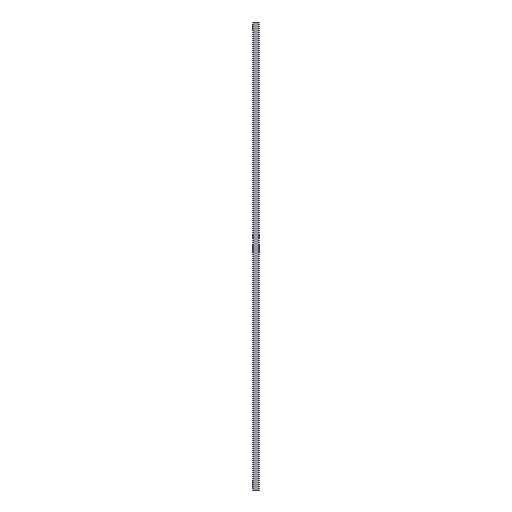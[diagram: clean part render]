
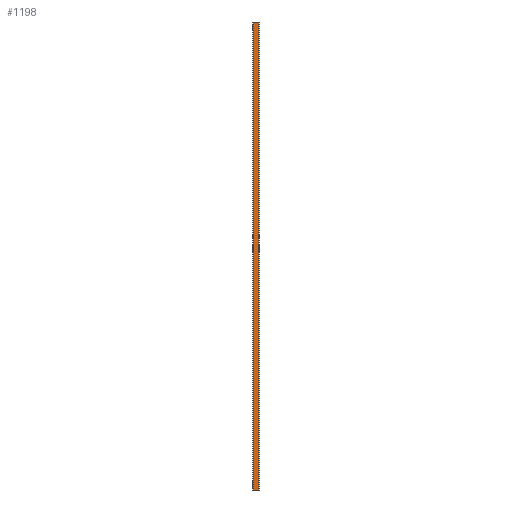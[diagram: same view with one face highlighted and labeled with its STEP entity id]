
A CAD part, left-side view. The second image highlights one B-rep face of the part: STEP entity #1198.
In plain terms, the highlighted planar face has unit normal (-1, 0, 0).
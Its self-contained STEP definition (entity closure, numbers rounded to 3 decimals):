
#38 = DIRECTION ( 'NONE',  ( 0., -1., 0. ) ) ;
#46 = EDGE_CURVE ( 'NONE', #1472, #1087, #1507, .T. ) ;
#58 = AXIS2_PLACEMENT_3D ( 'NONE', #1264, #1748, #861 ) ;
#63 = CARTESIAN_POINT ( 'NONE',  ( -8., 3.2, 879. ) ) ;
#81 = CARTESIAN_POINT ( 'NONE',  ( -8., 0., 879. ) ) ;
#94 = EDGE_CURVE ( 'NONE', #1472, #1373, #170, .T. ) ;
#126 = CARTESIAN_POINT ( 'NONE',  ( -8., 0., 879. ) ) ;
#134 = EDGE_CURVE ( 'NONE', #1066, #593, #1374, .T. ) ;
#150 = DIRECTION ( 'NONE',  ( 0., 0., -1. ) ) ;
#170 = LINE ( 'NONE', #1662, #845 ) ;
#175 = LINE ( 'NONE', #1652, #932 ) ;
#188 = ORIENTED_EDGE ( 'NONE', *, *, #1711, .T. ) ;
#207 = VECTOR ( 'NONE', #886, 1000. ) ;
#208 = CARTESIAN_POINT ( 'NONE',  ( -8., 12.5, 879. ) ) ;
#279 = VECTOR ( 'NONE', #514, 1000. ) ;
#333 = EDGE_CURVE ( 'NONE', #1087, #683, #1461, .T. ) ;
#375 = CARTESIAN_POINT ( 'NONE',  ( -8., 9.3, 0. ) ) ;
#458 = PLANE ( 'NONE',  #58 ) ;
#489 = LINE ( 'NONE', #81, #279 ) ;
#514 = DIRECTION ( 'NONE',  ( 0., 1., 0. ) ) ;
#536 = ORIENTED_EDGE ( 'NONE', *, *, #333, .F. ) ;
#553 = VERTEX_POINT ( 'NONE', #126 ) ;
#579 = DIRECTION ( 'NONE',  ( 0., 1., 0. ) ) ;
#581 = CARTESIAN_POINT ( 'NONE',  ( -8., 9.3, 879. ) ) ;
#587 = VECTOR ( 'NONE', #150, 1000. ) ;
#593 = VERTEX_POINT ( 'NONE', #1610 ) ;
#602 = EDGE_LOOP ( 'NONE', ( #885, #1206, #1645, #787, #188, #1534, #1386, #536 ) ) ;
#643 = DIRECTION ( 'NONE',  ( 0., 1., 0. ) ) ;
#683 = VERTEX_POINT ( 'NONE', #811 ) ;
#787 = ORIENTED_EDGE ( 'NONE', *, *, #1190, .F. ) ;
#793 = CARTESIAN_POINT ( 'NONE',  ( -8., 0., 0. ) ) ;
#811 = CARTESIAN_POINT ( 'NONE',  ( -8., 12.5, 0. ) ) ;
#845 = VECTOR ( 'NONE', #38, 1000. ) ;
#861 = DIRECTION ( 'NONE',  ( 0., 0., 1. ) ) ;
#876 = EDGE_CURVE ( 'NONE', #553, #1373, #1091, .T. ) ;
#885 = ORIENTED_EDGE ( 'NONE', *, *, #46, .F. ) ;
#886 = DIRECTION ( 'NONE',  ( 0., -1., 0. ) ) ;
#915 = FACE_OUTER_BOUND ( 'NONE', #602, .T. ) ;
#932 = VECTOR ( 'NONE', #989, 1000. ) ;
#989 = DIRECTION ( 'NONE',  ( 0., 0., -1. ) ) ;
#1066 = VERTEX_POINT ( 'NONE', #581 ) ;
#1087 = VERTEX_POINT ( 'NONE', #375 ) ;
#1091 = LINE ( 'NONE', #1635, #587 ) ;
#1144 = VECTOR ( 'NONE', #579, 1000. ) ;
#1190 = EDGE_CURVE ( 'NONE', #1194, #553, #1707, .T. ) ;
#1194 = VERTEX_POINT ( 'NONE', #63 ) ;
#1198 = ADVANCED_FACE ( 'NONE', ( #915 ), #458, .T. ) ;
#1206 = ORIENTED_EDGE ( 'NONE', *, *, #94, .T. ) ;
#1264 = CARTESIAN_POINT ( 'NONE',  ( -8., 0., 879. ) ) ;
#1282 = EDGE_CURVE ( 'NONE', #593, #683, #175, .T. ) ;
#1284 = CARTESIAN_POINT ( 'NONE',  ( -8., 3.2, 0. ) ) ;
#1354 = VECTOR ( 'NONE', #1733, 1000. ) ;
#1373 = VERTEX_POINT ( 'NONE', #1700 ) ;
#1374 = LINE ( 'NONE', #208, #1404 ) ;
#1386 = ORIENTED_EDGE ( 'NONE', *, *, #1282, .T. ) ;
#1404 = VECTOR ( 'NONE', #643, 1000. ) ;
#1461 = LINE ( 'NONE', #793, #1354 ) ;
#1472 = VERTEX_POINT ( 'NONE', #1284 ) ;
#1507 = LINE ( 'NONE', #1669, #1144 ) ;
#1534 = ORIENTED_EDGE ( 'NONE', *, *, #134, .T. ) ;
#1548 = CARTESIAN_POINT ( 'NONE',  ( -8., 0., 879. ) ) ;
#1610 = CARTESIAN_POINT ( 'NONE',  ( -8., 12.5, 879. ) ) ;
#1635 = CARTESIAN_POINT ( 'NONE',  ( -8., 0., 879. ) ) ;
#1645 = ORIENTED_EDGE ( 'NONE', *, *, #876, .F. ) ;
#1652 = CARTESIAN_POINT ( 'NONE',  ( -8., 12.5, 879. ) ) ;
#1662 = CARTESIAN_POINT ( 'NONE',  ( -8., 0., 0. ) ) ;
#1669 = CARTESIAN_POINT ( 'NONE',  ( -8., 0., 0. ) ) ;
#1700 = CARTESIAN_POINT ( 'NONE',  ( -8., 0., 0. ) ) ;
#1707 = LINE ( 'NONE', #1548, #207 ) ;
#1711 = EDGE_CURVE ( 'NONE', #1194, #1066, #489, .T. ) ;
#1733 = DIRECTION ( 'NONE',  ( 0., 1., 0. ) ) ;
#1748 = DIRECTION ( 'NONE',  ( -1., 0., 0. ) ) ;
